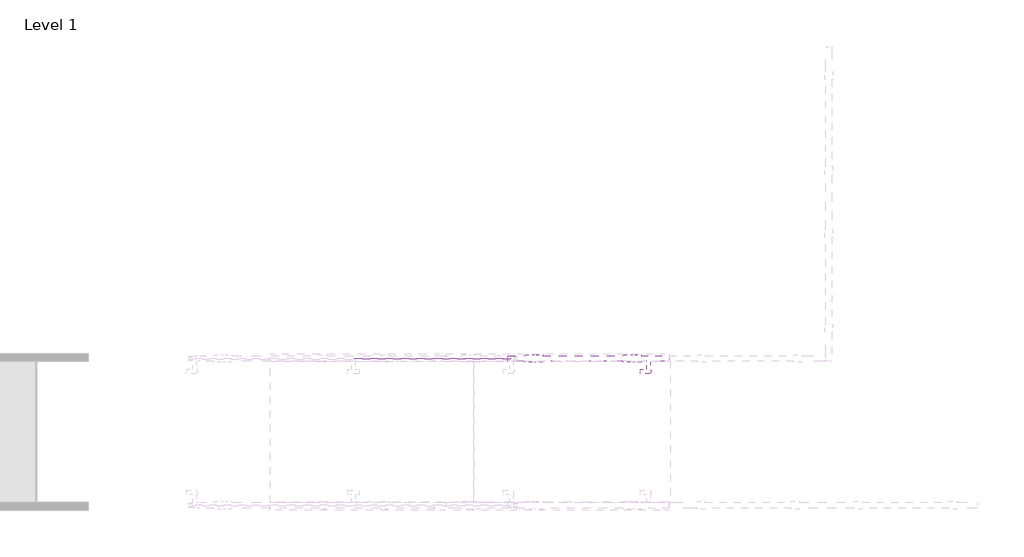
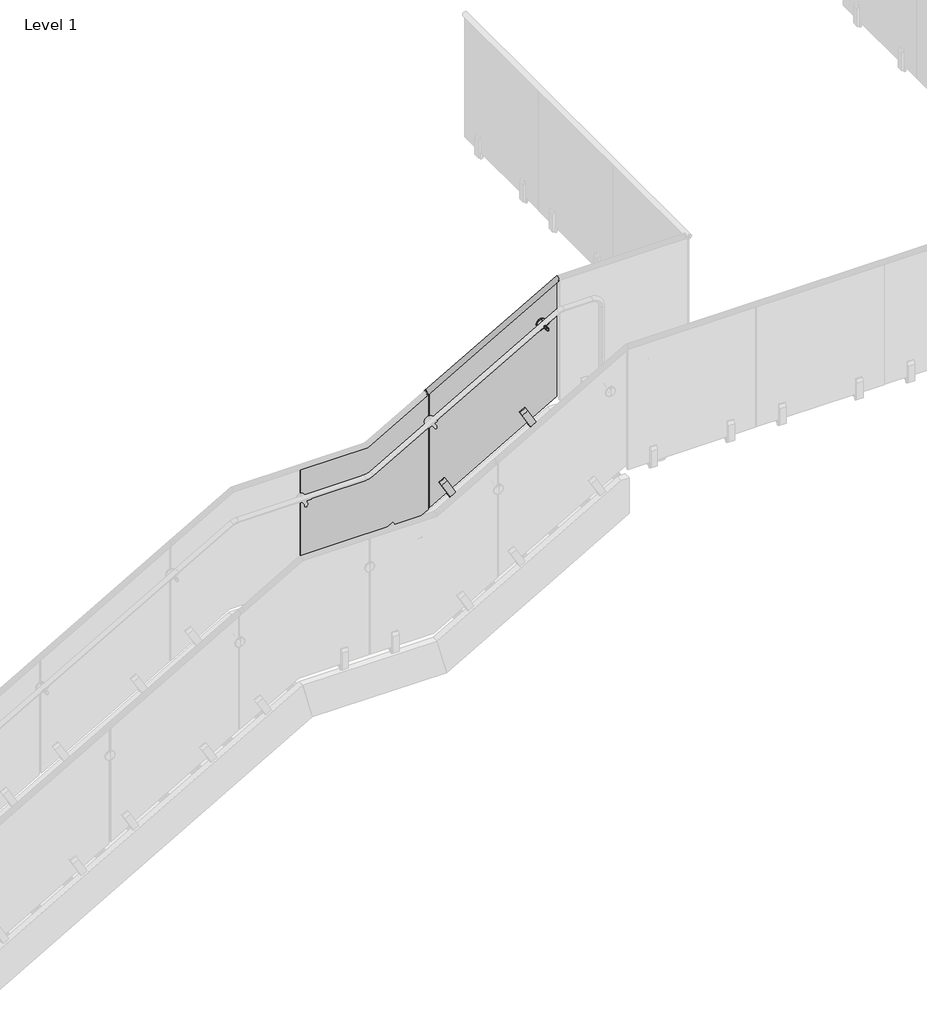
# One storey, part 7 of 17: 2 railings.
"""IFC4 building model written with IfcOpenShell, lengths in millimetres."""

from ifc_helpers import new_model, si_unit, point, frame, frame_2d, origin, place, context, project, spatial, polyline, circle_curve, ellipse_curve, trimmed, segment, composite_curve, outline, extrude, transform, mapped, element, save
from ifc_brep_helpers import plane_surface, cylinder_surface, revolved_surface, advanced_brep
from components import standard_glass_06dc4d49

model = new_model("IFC4")

# Units and contexts
model_context = context("Model", 3, world=origin())
ifc_project = project(units=[si_unit("LENGTHUNIT", "METRE", prefix="MILLI")], contexts=[model_context])

# Site, building, storey
site = spatial("IfcSite", under=ifc_project)
building = spatial("IfcBuilding", under=site)
storey = spatial("IfcBuildingStorey", under=building, Name="Level 1", Elevation=0.0)

# Railings
placement = place(None, origin())
element("IfcRailing", 1, ObjectType="VIVA-VISIO-Glass-Steel Surface Mount-Stair_Upper", at=placement, inside=storey, context=model_context, shape_type="SolidModel", body=[
    advanced_brep(
    [(29401.8862561, -21103.8417549, 3506.1985758), (29401.8862561, -21080.9070565, 3506.2634319), (29401.8862561, -21086.0617549, 3509.2136981), (29401.8862561, -21086.0617549, 3537.3859225), (29401.8862561, -21098.7617549, 3537.3859225), (29401.8862561, -21098.7617549, 3509.1240236), (30452.8112561, -21103.8417549, 4106.7271473), (30452.8112561, -21098.7617549, 4109.6525951), (30452.8112561, -21098.7617549, 4137.9144939), (30452.8112561, -21086.0617549, 4137.9144939), (30452.8112561, -21086.0617549, 4109.7422695), (30452.8112561, -21080.9070565, 4106.7920034)],
    [
        (0, 1, ellipse_curve(frame((29401.8862561, -21092.4117549, 3523.7512627), z_axis=(-1.0, 0.0, 0.0), x_axis=(0.0, 0.0, -1.0)), 21.9408586, 19.05)),
        (1, 2, ellipse_curve(frame((29401.8862561, -21082.8479446, 3509.2136981), z_axis=(-1.0, 0.0, 0.0), x_axis=(0.0, 0.0, -1.0)), 3.7015096, 3.2138103)),
        (2, 3),
        (3, 4),
        (4, 5),
        (5, 0, ellipse_curve(frame((29401.8862561, -21101.9367549, 3509.1240236), z_axis=(-1.0, 0.0, 0.0), x_axis=(0.0, 0.0, -1.0)), 3.6568098, 3.175)),
        (6, 7, ellipse_curve(frame((30452.8112561, -21101.9367549, 4109.6525951), z_axis=(1.0, 0.0, 0.0), x_axis=(0.0, 0.0, -1.0)), 3.6568098, 3.175)),
        (7, 8),
        (8, 9),
        (9, 10),
        (10, 11, ellipse_curve(frame((30452.8112561, -21082.8479446, 4109.7422695), z_axis=(1.0, 0.0, 0.0), x_axis=(0.0, 0.0, -1.0)), 3.7015096, 3.2138103)),
        (11, 6, ellipse_curve(frame((30452.8112561, -21092.4117549, 4124.2798341), z_axis=(1.0, 0.0, 0.0), x_axis=(0.0, 0.0, -1.0)), 21.9408586, 19.05)),
        (0, 6),
        (11, 1),
        (10, 2),
        (9, 3),
        (8, 4),
        (7, 5),
    ],
    [
        plane_surface(frame((29401.8862561, -21092.4117549, 3539.6714286), z_axis=(-1.0, 0.0, 0.0), x_axis=(0.0, 1.0, 0.0))),
        plane_surface(frame((30452.8112561, -21092.4117549, 4140.2), z_axis=(1.0, 0.0, 0.0), x_axis=(0.0, 1.0, 0.0))),
        cylinder_surface(frame((29408.7441737, -21092.4117549, 3527.6700728), z_axis=(-0.8682431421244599, 0.0, -0.4961389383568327), x_axis=(0.0, 1.0, 0.0)), 19.05),
        cylinder_surface(frame((29415.0065092, -21082.8479446, 3516.7109856), z_axis=(-0.8682431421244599, 0.0, -0.4961389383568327), x_axis=(0.0, 1.0, 0.0)), 3.2138103),
        plane_surface(frame((29401.8862561, -21086.0617549, 3509.2136981), z_axis=(0.0, -1.0000000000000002, 0.0), x_axis=(0.8682431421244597, 0.0, 0.496138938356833))),
        plane_surface(frame((29401.8862561, -21086.0617549, 3537.3859225), z_axis=(0.496138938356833, 0.0, -0.8682431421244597), x_axis=(0.8682431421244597, 0.0, 0.496138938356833))),
        plane_surface(frame((29401.8862561, -21098.7617549, 3537.3859225), z_axis=(0.0, 1.0000000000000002, 0.0), x_axis=(0.8682431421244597, 0.0, 0.496138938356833))),
        cylinder_surface(frame((29415.0451382, -21101.9367549, 3516.6433849), z_axis=(-0.8682431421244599, 0.0, -0.4961389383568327), x_axis=(0.0, 1.0, 0.0)), 3.175),
    ],
    [
        (0, [[1, 2, 3, 4, 5, 6]]),
        (1, [[7, 8, 9, 10, 11, 12]]),
        (2, [[-1, 13, -12, 14]]),
        (3, [[-2, -14, -11, 15]]),
        (4, [[-3, -15, -10, 16]]),
        (5, [[-4, -16, -9, 17]]),
        (6, [[-5, -17, -8, 18]]),
        (7, [[-6, -18, -7, -13]]),
    ],
),
    extrude(outline(polyline([(0.0, -12.7), (0.0, 0.0), (50.8, 0.0), (50.8, -12.7), (0.0, -12.7)])), frame((30233.2728803, -21086.0617549, 2957.0138959), z_axis=(-0.49613893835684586, 0.0, 0.8682431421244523), x_axis=(0.8682431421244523, 0.0, 0.49613893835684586)), (0.0, 0.0, 1.0), 50.8),
    extrude(outline(polyline([(0.0, 0.0), (139.7, 0.0), (166.6875, -11.1125), (166.6875, -19.05), (0.0, -19.05), (0.0, 0.0)])), frame((30226.1842952, -21117.8117549, 2969.4189198), z_axis=(0.8682431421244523, 0.0, 0.49613893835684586), x_axis=(-0.49613893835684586, 0.0, 0.8682431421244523)), (0.0, 0.0, 1.0), 50.8),
    extrude(outline(polyline([(0.0, -50.8), (0.0, -31.75), (166.6875, -31.75), (166.6875, -39.6875), (139.7, -50.8), (0.0, -50.8)])), frame((30226.1842952, -21117.8117549, 2969.4189198), z_axis=(0.8682431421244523, 0.0, 0.49613893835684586), x_axis=(-0.49613893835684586, 0.0, 0.8682431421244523)), (0.0, 0.0, 1.0), 50.8),
    extrude(outline(polyline([(4132.9732161, 30443.6693027), (3552.4017875, 29427.6693027), (2559.9501106, 29427.6693027), (3140.5215392, 30443.6693027), (4132.9732161, 30443.6693027)])), frame((0.0, -21098.7617549, 0.0), z_axis=(0.0, 1.0, 0.0), x_axis=(0.0, 0.0, 1.0)), (0.0, 0.0, 1.0), 12.7),
    extrude(outline(polyline([(0.0, -12.7), (0.0, 0.0), (50.8, 0.0), (50.8, -12.7), (0.0, -12.7)])), frame((29593.1928803, -21086.0617549, 2591.2538959), z_axis=(-0.49613893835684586, 0.0, 0.8682431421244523), x_axis=(0.8682431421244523, 0.0, 0.49613893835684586)), (0.0, 0.0, 1.0), 50.8),
    extrude(outline(polyline([(0.0, 0.0), (139.7, 0.0), (166.6875, -11.1125), (166.6875, -19.05), (0.0, -19.05), (0.0, 0.0)])), frame((29586.1042952, -21117.8117549, 2603.6589198), z_axis=(0.8682431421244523, 0.0, 0.49613893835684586), x_axis=(-0.49613893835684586, 0.0, 0.8682431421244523)), (0.0, 0.0, 1.0), 50.8),
    extrude(outline(polyline([(0.0, -50.8), (0.0, -31.75), (166.6875, -31.75), (166.6875, -39.6875), (139.7, -50.8), (0.0, -50.8)])), frame((29586.1042952, -21117.8117549, 2603.6589198), z_axis=(0.8682431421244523, 0.0, 0.49613893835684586), x_axis=(-0.49613893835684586, 0.0, 0.8682431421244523)), (0.0, 0.0, 1.0), 50.8),
    extrude(outline(composite_curve([segment(trimmed(circle_curve(frame_2d((0.0, 7.0)), 7.0), [point((0.0, 14.0))], [point((0.0, 0.0))], False, "CARTESIAN"), True, "CONTINUOUS"), segment(trimmed(circle_curve(frame_2d((0.0, 7.0)), 7.0), [point((0.0, 0.0))], [point((0.0, 14.0))], False, "CARTESIAN"), True, "CONTINUOUS")], self_intersect=False)), frame((30329.0824492, -21167.6316158, 3782.7471988), z_axis=(-0.5018548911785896, 0.0, 0.8649518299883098), x_axis=(-0.8649518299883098, 0.0, -0.5018548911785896)), (0.0, 0.0, 1.0), 52.8378352),
    extrude(outline(composite_curve([segment(polyline([(5.2466064, -13.9247915), (4.2292194, -14.9511811)]), True, "CONTINUOUS"), segment(trimmed(circle_curve(frame_2d((3.1638975, -13.8952033)), 1.5), [point((4.2292194, -14.9511811))], [point((2.0329757, -14.8806047))], False, "CARTESIAN"), True, "CONTINUOUS"), segment(trimmed(circle_curve(frame_2d((18.6575252, -0.3952033)), 22.05), [point((2.0329757, -14.8806047))], [point((2.0329757, 14.0901982))], False, "CARTESIAN"), True, "CONTINUOUS"), segment(trimmed(circle_curve(frame_2d((3.1638975, 13.1047967)), 1.5), [point((2.0329757, 14.0901982))], [point((4.2292194, 14.1607746))], False, "CARTESIAN"), True, "CONTINUOUS"), segment(polyline([(4.2292194, 14.1607746), (5.2466064, 13.134385)]), True, "CONTINUOUS"), segment(trimmed(circle_curve(frame_2d((18.6575252, -0.3952033)), 19.05), [point((5.2466064, 13.134385))], [point((5.2466064, -13.9247915))], True, "CARTESIAN"), True, "CONTINUOUS")], self_intersect=False)), frame((30264.6146672, -21176.3588481, 3810.4883816), z_axis=(0.8664916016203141, 0.0, 0.49919165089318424), x_axis=(-0.49919165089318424, 0.0, 0.8664916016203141)), (0.0, 0.0, 1.0), 74.5229187),
    extrude(outline(composite_curve([segment(trimmed(circle_curve(frame_2d((3804.8837143, 30316.2862561)), 11.0132813), [point((3804.8837143, 30327.2995373))], [point((3804.8837143, 30305.2729748))], False, "CARTESIAN"), True, "CONTINUOUS"), segment(trimmed(circle_curve(frame_2d((3804.8837143, 30316.2862561)), 11.0132813), [point((3804.8837143, 30305.2729748))], [point((3804.8837143, 30327.2995373))], False, "CARTESIAN"), True, "CONTINUOUS")], self_intersect=False)), frame((0.0, -21187.6617549, 0.0), z_axis=(0.0, 1.0, 0.0), x_axis=(0.0, 0.0, 1.0)), (0.0, 0.0, 1.0), 79.2757812),
    advanced_brep(
    [(30316.2862561, -21076.4375361, 3804.8837143), (30316.2862561, -21076.4375361, 3768.7680893), (30316.2862561, -21076.4375361, 3840.9993393), (30316.2862561, -21108.3859736, 3768.7680893), (30316.2862561, -21108.3859736, 3804.8837143), (30316.2862561, -21108.3859736, 3840.9993393), (30316.2862561, -21106.4015986, 3766.7837143), (30316.2862561, -21106.4015986, 3842.9837143), (30316.2862561, -21098.7617549, 3766.7837143), (30316.2862561, -21098.7617549, 3842.9837143), (30316.2862561, -21098.7617549, 3792.1837143), (30316.2862561, -21098.7617549, 3817.5837143), (30316.2862561, -21086.0617549, 3792.1837143), (30316.2862561, -21086.0617549, 3817.5837143), (30316.2862561, -21086.0617549, 3766.7837143), (30316.2862561, -21086.0617549, 3842.9837143), (30316.2862561, -21078.4219111, 3766.7837143), (30316.2862561, -21078.4219111, 3842.9837143)],
    [
        (0, 1),
        (1, 2, circle_curve(frame((30316.2862561, -21076.4375361, 3804.8837143), z_axis=(0.0, 1.0, 0.0), x_axis=(0.0, 0.0, 1.0)), 36.115625)),
        (2, 0),
        (2, 1, circle_curve(frame((30316.2862561, -21076.4375361, 3804.8837143), z_axis=(0.0, 1.0, 0.0), x_axis=(0.0, 0.0, 1.0)), 36.115625)),
        (3, 4),
        (4, 5),
        (5, 3, circle_curve(frame((30316.2862561, -21108.3859736, 3804.8837143), z_axis=(0.0, -1.0, 0.0), x_axis=(0.0, 0.0, 1.0)), 36.115625)),
        (3, 5, circle_curve(frame((30316.2862561, -21108.3859736, 3804.8837143), z_axis=(0.0, -1.0, 0.0), x_axis=(0.0, 0.0, 1.0)), 36.115625)),
        (6, 3),
        (5, 7),
        (7, 6, circle_curve(frame((30316.2862561, -21106.4015986, 3804.8837143), z_axis=(0.0, -1.0, 0.0), x_axis=(0.0, 0.0, 1.0)), 38.1)),
        (6, 7, circle_curve(frame((30316.2862561, -21106.4015986, 3804.8837143), z_axis=(0.0, -1.0, 0.0), x_axis=(0.0, 0.0, 1.0)), 38.1)),
        (8, 6),
        (7, 9),
        (9, 8, circle_curve(frame((30316.2862561, -21098.7617549, 3804.8837143), z_axis=(0.0, -1.0, 0.0), x_axis=(0.0, 0.0, 1.0)), 38.1)),
        (8, 9, circle_curve(frame((30316.2862561, -21098.7617549, 3804.8837143), z_axis=(0.0, -1.0, 0.0), x_axis=(0.0, 0.0, 1.0)), 38.1)),
        (10, 8),
        (9, 11),
        (11, 10, circle_curve(frame((30316.2862561, -21098.7617549, 3804.8837143), z_axis=(0.0, -1.0, 0.0), x_axis=(0.0, 0.0, 1.0)), 12.7)),
        (10, 11, circle_curve(frame((30316.2862561, -21098.7617549, 3804.8837143), z_axis=(0.0, -1.0, 0.0), x_axis=(0.0, 0.0, 1.0)), 12.7)),
        (12, 10),
        (11, 13),
        (13, 12, circle_curve(frame((30316.2862561, -21086.0617549, 3804.8837143), z_axis=(0.0, -1.0, 0.0), x_axis=(0.0, 0.0, 1.0)), 12.7)),
        (12, 13, circle_curve(frame((30316.2862561, -21086.0617549, 3804.8837143), z_axis=(0.0, -1.0, 0.0), x_axis=(0.0, 0.0, 1.0)), 12.7)),
        (14, 12),
        (13, 15),
        (15, 14, circle_curve(frame((30316.2862561, -21086.0617549, 3804.8837143), z_axis=(0.0, -1.0, 0.0), x_axis=(0.0, 0.0, 1.0)), 38.1)),
        (14, 15, circle_curve(frame((30316.2862561, -21086.0617549, 3804.8837143), z_axis=(0.0, -1.0, 0.0), x_axis=(0.0, 0.0, 1.0)), 38.1)),
        (16, 14),
        (15, 17),
        (17, 16, circle_curve(frame((30316.2862561, -21078.4219111, 3804.8837143), z_axis=(0.0, -1.0, 0.0), x_axis=(0.0, 0.0, 1.0)), 38.1)),
        (16, 17, circle_curve(frame((30316.2862561, -21078.4219111, 3804.8837143), z_axis=(0.0, -1.0, 0.0), x_axis=(0.0, 0.0, 1.0)), 38.1)),
        (1, 16),
        (17, 2),
    ],
    [
        plane_surface(frame((30316.2862561, -21076.4375361, 3804.8837143), z_axis=(0.0, 1.0, 0.0), x_axis=(0.0, 0.0, 1.0))),
        plane_surface(frame((30316.2862561, -21108.3859736, 3804.8837143), z_axis=(0.0, -1.0, 0.0), x_axis=(0.0, 0.0, 1.0))),
        revolved_surface(polyline([(30316.2862561, -21108.3859736, 3840.9993393), (30316.2862561, -21106.4015986, 3842.9837143)]), (30316.2862561, -21040.3219111, 3804.8837143), (0.0, 1.0, 0.0)),
        cylinder_surface(frame((30316.2862561, -21040.3219111, 3804.8837143), z_axis=(0.0, 1.0, 0.0), x_axis=(0.0, 0.0, 1.0)), 38.1),
        plane_surface(frame((30316.2862561, -21098.7617549, 3804.8837143), z_axis=(0.0, 1.0, 0.0), x_axis=(0.0, 0.0, 1.0))),
        cylinder_surface(frame((30316.2862561, -21040.3219111, 3804.8837143), z_axis=(0.0, 1.0, 0.0), x_axis=(0.0, 0.0, 1.0)), 12.7),
        plane_surface(frame((30316.2862561, -21086.0617549, 3804.8837143), z_axis=(0.0, -1.0, 0.0), x_axis=(0.0, 0.0, 1.0))),
        revolved_surface(polyline([(30316.2862561, -21078.4219111, 3842.9837143), (30316.2862561, -21076.4375361, 3840.9993393)]), (30316.2862561, -21040.3219111, 3804.8837143), (0.0, 1.0, 0.0)),
    ],
    [
        (0, [[1, 2, 3]]),
        (0, [[-3, 4, -1]]),
        (1, [[5, 6, 7]]),
        (1, [[-6, -5, 8]]),
        (2, [[9, -7, 10, 11]]),
        (2, [[-10, -8, -9, 12]]),
        (3, [[13, -11, 14, 15]]),
        (3, [[-14, -12, -13, 16]]),
        (4, [[17, -15, 18, 19]]),
        (4, [[-18, -16, -17, 20]]),
        (5, [[21, -19, 22, 23]]),
        (5, [[-22, -20, -21, 24]]),
        (6, [[25, -23, 26, 27]]),
        (6, [[-26, -24, -25, 28]]),
        (3, [[29, -27, 30, 31]]),
        (3, [[-30, -28, -29, 32]]),
        (7, [[33, -31, 34, -2]]),
        (7, [[-34, -32, -33, -4]]),
    ],
),
])
standard_glass_shape = standard_glass_06dc4d49(model_context)
element("IfcRailing", 2, ObjectType="Baluster-Landing-Panel-VIVA-VISIO-Upper : Standard_Glass", at=placement, inside=storey, context=model_context, shape_type="MappedRepresentation", body=[
    mapped(standard_glass_shape, transform((29420.9362561, -21057.6290256, 2177.1428571), x_axis=(0.0, -1.0, 0.0), y_axis=(1.0, 0.0, 0.0), z_axis=(0.0, 0.0, 1.0))),
])

save(model, "model.ifc")
